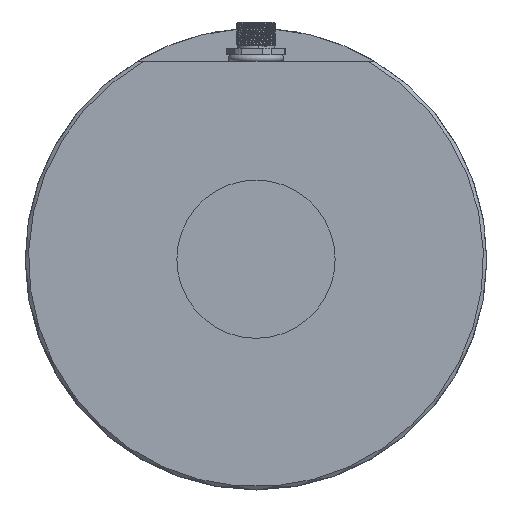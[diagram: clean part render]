
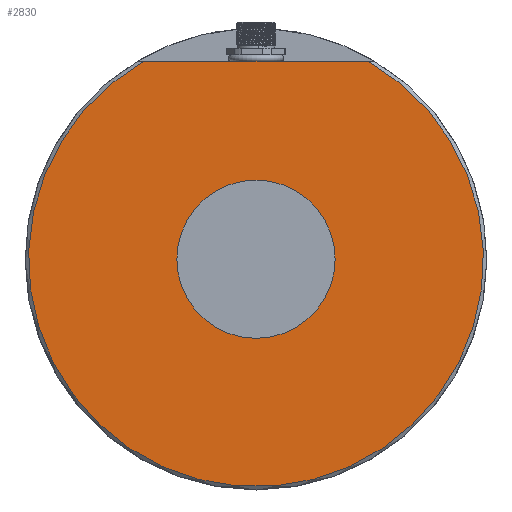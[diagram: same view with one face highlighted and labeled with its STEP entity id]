
A CAD part, left-side view. The second image highlights one B-rep face of the part: STEP entity #2830.
In plain terms, the highlighted planar face has unit normal (-1, 0, 0).
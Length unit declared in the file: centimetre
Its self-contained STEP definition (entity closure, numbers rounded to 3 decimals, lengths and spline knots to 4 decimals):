
#734=VECTOR('',#14318,1.);
#850=LINE('',#3169,#734);
#1001=PLANE('',#3039);
#1077=VERTEX_POINT('',#3152);
#1080=VERTEX_POINT('',#3159);
#1164=VERTEX_POINT('',#3813);
#1293=CIRCLE('',#2938,6.9);
#1332=CIRCLE('',#3023,2.4);
#1380=EDGE_CURVE('',#1080,#1077,#1293,.T.);
#1385=EDGE_CURVE('',#1080,#1077,#850,.T.);
#1503=EDGE_CURVE('',#1164,#1164,#1332,.T.);
#1954=ORIENTED_EDGE('',*,*,#1380,.F.);
#1955=ORIENTED_EDGE('',*,*,#1385,.T.);
#1956=ORIENTED_EDGE('',*,*,#1503,.T.);
#2418=EDGE_LOOP('',(#1954,#1955));
#2419=EDGE_LOOP('',(#1956));
#2634=FACE_BOUND('',#2418,.T.);
#2635=FACE_BOUND('',#2419,.T.);
#2830=ADVANCED_FACE('',(#2634,#2635),#1001,.T.);
#2938=AXIS2_PLACEMENT_3D('',#3160,#14310,#14311);
#3023=AXIS2_PLACEMENT_3D('',#3812,#14522,#14523);
#3039=AXIS2_PLACEMENT_3D('',#3832,#14545,$);
#3152=CARTESIAN_POINT('',(0.,3.4073,6.));
#3159=CARTESIAN_POINT('',(0.,-3.4073,6.));
#3160=CARTESIAN_POINT('',(0.,0.,0.));
#3169=CARTESIAN_POINT('',(0.,2.775,6.));
#3812=CARTESIAN_POINT('',(0.,0.,0.));
#3813=CARTESIAN_POINT('',(0.,0.,2.4));
#3832=CARTESIAN_POINT('',(0.,0.,-3.5));
#14310=DIRECTION('',(1.,0.,0.));
#14311=DIRECTION('',(0.,0.,-6.9));
#14318=DIRECTION('',(0.,1.,0.));
#14522=DIRECTION('',(1.,0.,0.));
#14523=DIRECTION('',(0.,0.,2.4));
#14545=DIRECTION('',(-1.,0.,0.));
